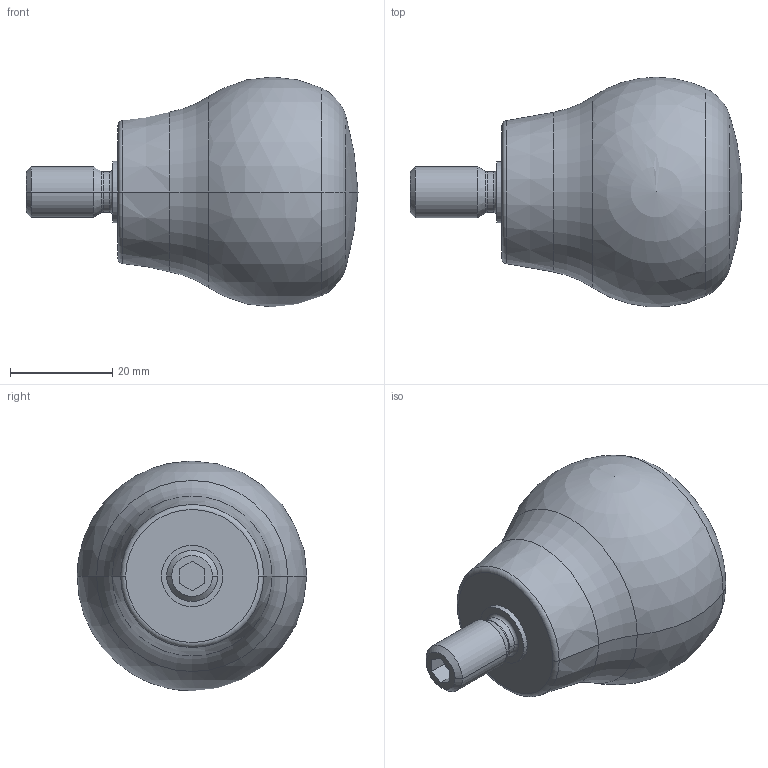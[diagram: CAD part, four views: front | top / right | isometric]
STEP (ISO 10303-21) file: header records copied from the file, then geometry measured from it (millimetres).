
FILE_DESCRIPTION (( 'STEP AP214' ), '1' );
FILE_NAME ('597.1-45-47-M10.step', '2019-05-20T07:12:43', ( 'user' ), ( '' ), 'SwSTEP 2.0', 'SolidWorks 2019', '' );
FILE_SCHEMA (( 'AUTOMOTIVE_DESIGN' ));
Length unit declared in the file: millimetre
Products named in the file (1): 597.1-45-47-M10
Bounding box: 65 x 44.94 x 45 mm (x, y, z)
Volume: 53152.7 mm3; surface area: 7714.9 mm2
Topology: 1 solids, 1 shells, 36 faces, 79 edges, 46 vertices
Faces by surface type: torus 10, plane 10, cone 6, cylinder 6, sphere 4
Entity records: 1204 total; most frequent: DIRECTION 192, CARTESIAN_POINT 154, ORIENTED_EDGE 148, AXIS2_PLACEMENT_3D 81, EDGE_CURVE 74, CIRCLE 44, VERTEX_POINT 43, EDGE_LOOP 39
